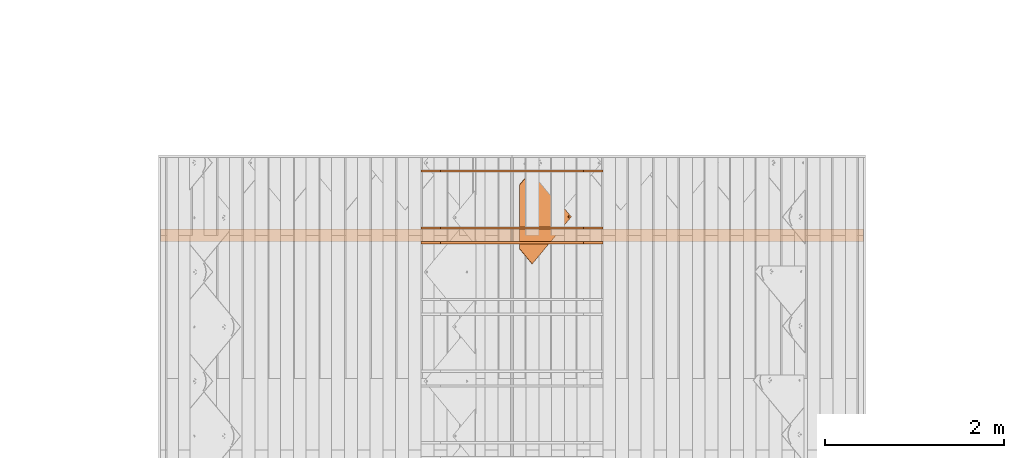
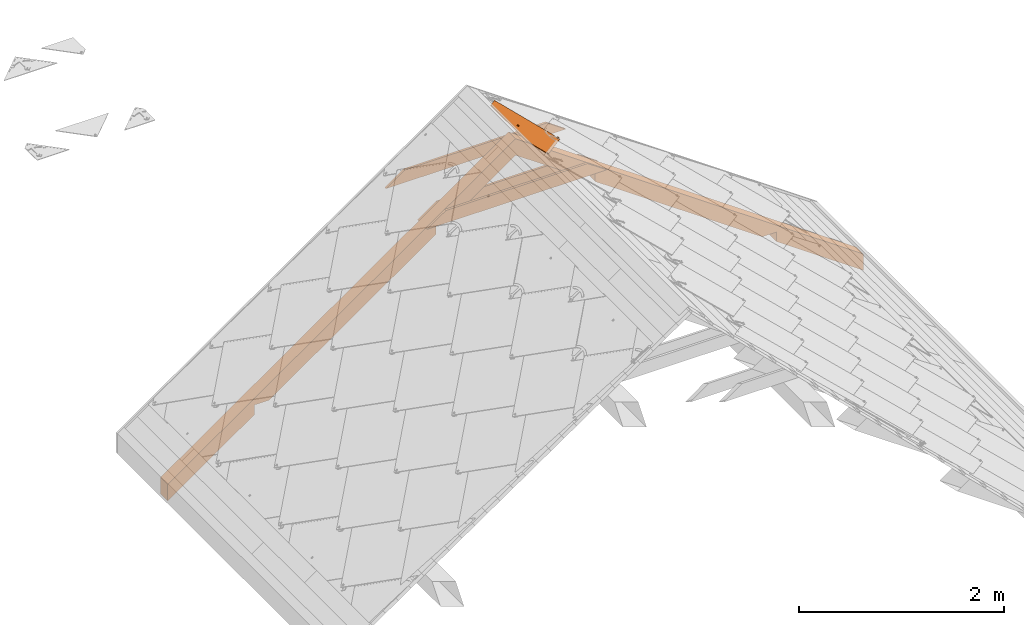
# One storey, part 85 of 133: 5 proxies, 1 element without a shape of its own.
"""IFC2X3 building model written with IfcOpenShell, lengths in millimetres."""

from ifc_helpers import new_model, entity, si_unit, converted_unit, derived_unit, direction, frame, origin, place, context, subcontext, project, spatial, polyline, outline, extrude, faceted_brep, source, transform, mapped, material, material_list, type_object, type_shapes, element, aggregate, save


model = new_model("IFC2X3")

# Units and contexts
model_context = context("Model", 3, precision=0.01, world=origin(), true_north=direction((6.12303176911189e-17, 1.0)))
body_context = subcontext(model_context, "Body", "Model", "MODEL_VIEW")
ifc_project = project(units=[si_unit("LENGTHUNIT", "METRE", prefix="MILLI"), si_unit("AREAUNIT", "SQUARE_METRE"), si_unit("VOLUMEUNIT", "CUBIC_METRE"), converted_unit("PLANEANGLEUNIT", "DEGREE", entity("IfcRatioMeasure", 0.0174532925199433), si_unit("PLANEANGLEUNIT", "RADIAN"), dimensions=[0, 0, 0, 0, 0, 0, 0]), si_unit("MASSUNIT", "GRAM", prefix="KILO"), derived_unit("MASSDENSITYUNIT", [(si_unit("MASSUNIT", "GRAM", prefix="KILO"), 1), (si_unit("LENGTHUNIT", "METRE"), -3)]), si_unit("TIMEUNIT", "SECOND"), si_unit("FREQUENCYUNIT", "HERTZ"), si_unit("THERMODYNAMICTEMPERATUREUNIT", "DEGREE_CELSIUS"), derived_unit("THERMALTRANSMITTANCEUNIT", [(si_unit("MASSUNIT", "GRAM", prefix="KILO"), 1), (si_unit("THERMODYNAMICTEMPERATUREUNIT", "KELVIN"), -1), (si_unit("TIMEUNIT", "SECOND"), -3)]), derived_unit("VOLUMETRICFLOWRATEUNIT", [(si_unit("LENGTHUNIT", "METRE"), 3), (si_unit("TIMEUNIT", "SECOND"), -1)]), si_unit("ELECTRICCURRENTUNIT", "AMPERE"), si_unit("ELECTRICVOLTAGEUNIT", "VOLT"), si_unit("POWERUNIT", "WATT"), si_unit("FORCEUNIT", "NEWTON", prefix="KILO"), si_unit("ILLUMINANCEUNIT", "LUX"), si_unit("LUMINOUSFLUXUNIT", "LUMEN"), si_unit("LUMINOUSINTENSITYUNIT", "CANDELA"), derived_unit("USERDEFINED", [(si_unit("MASSUNIT", "GRAM", prefix="KILO"), -1), (si_unit("LENGTHUNIT", "METRE"), -2), (si_unit("TIMEUNIT", "SECOND"), 3), (si_unit("LUMINOUSFLUXUNIT", "LUMEN"), 1)]), derived_unit("LINEARVELOCITYUNIT", [(si_unit("LENGTHUNIT", "METRE"), 1), (si_unit("TIMEUNIT", "SECOND"), -1)]), si_unit("PRESSUREUNIT", "PASCAL"), derived_unit("USERDEFINED", [(si_unit("LENGTHUNIT", "METRE"), -2), (si_unit("MASSUNIT", "GRAM", prefix="KILO"), 1), (si_unit("TIMEUNIT", "SECOND"), -2)])], contexts=[model_context])

# Site, building, storey
site_placement = place(None, origin())
site = spatial("IfcSite", under=ifc_project, at=site_placement, Name="Default", CompositionType="ELEMENT")
building_placement = place(site_placement, origin())
building = spatial("IfcBuilding", under=site, at=building_placement, CompositionType="ELEMENT")
storey_placement = place(building_placement, origin())
storey = spatial("IfcBuildingStorey", under=building, at=storey_placement, Name="Level 1", CompositionType="ELEMENT", Elevation=0.0)

# Assembly, proxies
assembly_placement = place(storey_placement, origin())
assembly = element("IfcElementAssembly", 1, at=assembly_placement, inside=storey, Name="Structural Framing Assembly:Roof Construction Assembly", ObjectType="Structural Framing Assembly:Roof Construction Assembly", AssemblyPlace="NOTDEFINED", PredefinedType="USERDEFINED")
ifc_material_1 = material(Name="Wood - Generic - Wood For Showcase")
building_element_proxy_type_1 = type_object("IfcBuildingElementProxyType", Name="Structural Framing 1", PredefinedType="NOTDEFINED", material=ifc_material_1)
shared_shape_1 = source(origin(), body_context, "Body", "SweptSolid", [
    extrude(outline(polyline([(-929.245683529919, -1327.10037070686), (3863.25950492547, -1327.10037070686), (3975.29271103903, -1167.10037070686), (2778.93361405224, -1167.10037070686), (2713.54351952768, -1260.48710386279), (2580.17344271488, -1167.10037070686), (278.93361405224, -1167.10037070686), (213.543519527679, -1260.48710386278), (80.1734427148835, -1167.10037070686), (-817.212477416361, -1167.10037070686), (-1124.13653843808, -323.83344356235), (-1257.50661525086, -230.446710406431), (-1192.11652072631, -137.059977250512), (-1979.18689675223, 2025.39810840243), (-2112.55697356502, 2118.78484155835), (-2047.16687904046, 2212.17157471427), (-2456.34578886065, 3336.38138996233), (-2568.37899497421, 3176.38138996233), (-929.245683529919, -1327.10037070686)])), frame((1206.77890726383, 3785.55080214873, 1179.90959070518), z_axis=(0.0, 1.0, 0.0), x_axis=(0.819152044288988, 0.0, -0.573576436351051)), (0.0, 0.0, 1.0), 140.0),
])
type_shapes(building_element_proxy_type_1, [shared_shape_1])
proxy_1_placement = place(assembly_placement, frame((0.0, -800.0, 0.0)))
proxy_1 = element("IfcBuildingElementProxy", 2, at=proxy_1_placement, type_object=building_element_proxy_type_1, material=ifc_material_1, Name="Structural Framing 2:Structural Framing 1", ObjectType="Structural Framing 2:Structural Framing 1", context=body_context, shape_type="MappedRepresentation", body=[
    mapped(shared_shape_1, transform((0.0, 0.0, 0.0), scale=1.0)),
])
building_element_proxy_type_2 = type_object("IfcBuildingElementProxyType", Name="Structural Framing 296", PredefinedType="NOTDEFINED", material=ifc_material_1)
shared_shape_2 = source(origin(), body_context, "Body", "SweptSolid", [
    extrude(outline(polyline([(-1014.04699829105, -75.0), (1014.04699829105, -75.0), (799.824797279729, 75.0), (-799.824797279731, 75.0), (-1014.04699829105, -75.0)])), frame((1206.77890726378, 3760.55080214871, 2164.95664769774), z_axis=(0.0, 1.0, 0.0), x_axis=(-1.0, 0.0, 0.0)), (0.0, 0.0, 1.0), 24.9999999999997),
])
type_shapes(building_element_proxy_type_2, [shared_shape_2])
proxy_2_placement = place(assembly_placement, origin())
proxy_2 = element("IfcBuildingElementProxy", 3, at=proxy_2_placement, type_object=building_element_proxy_type_2, material=ifc_material_1, Name="Structural Framing 296:Structural Framing 296", ObjectType="Structural Framing 296:Structural Framing 296", context=body_context, shape_type="MappedRepresentation", body=[
    mapped(shared_shape_2, transform((0.0, 0.0, 0.0), scale=1.0)),
])
building_element_proxy_type_3 = type_object("IfcBuildingElementProxyType", Name="Structural Framing 296", PredefinedType="NOTDEFINED", material=ifc_material_1)
shared_shape_3 = source(origin(), body_context, "Body", "SweptSolid", [
    extrude(outline(polyline([(-1014.04699829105, -75.0), (1014.04699829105, -75.0), (799.824797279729, 75.0), (-799.824797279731, 75.0), (-1014.04699829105, -75.0)])), frame((1206.77890726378, 3760.55080214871, 2164.95664769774), z_axis=(0.0, 1.0, 0.0), x_axis=(-1.0, 0.0, 0.0)), (0.0, 0.0, 1.0), 24.9999999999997),
])
type_shapes(building_element_proxy_type_3, [shared_shape_3])
proxy_3_placement = place(assembly_placement, frame((0.0, -800.0, 0.0)))
proxy_3 = element("IfcBuildingElementProxy", 4, at=proxy_3_placement, type_object=building_element_proxy_type_3, material=ifc_material_1, Name="Structural Framing 297:Structural Framing 296", ObjectType="Structural Framing 297:Structural Framing 296", context=body_context, shape_type="MappedRepresentation", body=[
    mapped(shared_shape_3, transform((0.0, 0.0, 0.0), scale=1.0)),
])
building_element_proxy_type_4 = type_object("IfcBuildingElementProxyType", Name="Structural Framing 296", PredefinedType="NOTDEFINED", material=ifc_material_1)
shared_shape_4 = source(origin(), body_context, "Body", "SweptSolid", [
    extrude(outline(polyline([(-1014.04699829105, -75.0), (1014.04699829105, -75.0), (799.824797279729, 75.0), (-799.824797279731, 75.0), (-1014.04699829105, -75.0)])), frame((1206.77890726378, 2325.55080214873, 2164.95664769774), z_axis=(0.0, 1.0, 0.0), x_axis=(-1.0, 0.0, 0.0)), (0.0, 0.0, 1.0), 25.0),
])
type_shapes(building_element_proxy_type_4, [shared_shape_4])
proxy_4_placement = place(assembly_placement, frame((0.0, 800.0, 0.0)))
proxy_4 = element("IfcBuildingElementProxy", 5, at=proxy_4_placement, type_object=building_element_proxy_type_4, material=ifc_material_1, Name="Structural Framing 298:Structural Framing 296", ObjectType="Structural Framing 298:Structural Framing 296", context=body_context, shape_type="MappedRepresentation", body=[
    mapped(shared_shape_4, transform((0.0, 0.0, 0.0), scale=1.0)),
])
aggregate(assembly, [proxy_1, proxy_2, proxy_3, proxy_4])

# Proxy
ifc_material_2 = material(Name="Rubber - Sunstyle - Black")
ifc_material_3 = material(Name="Glass - Sunstyle - Tainted Black")
ifc_material_list_1 = material_list([ifc_material_2, ifc_material_3])
ifc_material_list_2 = material_list([ifc_material_2, ifc_material_3])
building_element_proxy_type_5 = type_object("IfcBuildingElementProxyType", Name="Shingle Top - Black", PredefinedType="NOTDEFINED", material=ifc_material_list_2)
shared_shape_5 = source(origin(), body_context, "Body", "Brep", [
    faceted_brep([(-518.396436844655, -96.9865733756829, 16.4476231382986), (-518.396436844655, -96.9614556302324, 17.9474128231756), (-526.881123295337, -88.4767691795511, 17.8053154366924), (-526.881123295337, -88.5018869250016, 16.3055257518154), (-376.996804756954, 61.3404039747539, 13.7960402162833), (-368.512118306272, 52.8557175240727, 13.9381376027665), (-376.996804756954, 61.3655217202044, 15.2958299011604), (-368.512118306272, 52.8808352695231, 15.4379272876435)], [[[0, 1, 2, 3]], [[0, 3, 4, 5]], [[3, 2, 6, 4]], [[2, 1, 7, 6]], [[1, 0, 5, 7]], [[5, 4, 6, 7]]]),
    faceted_brep([(0.166366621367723, -33.6374645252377, -4.47296585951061), (-5.6078362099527, -36.9707346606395, -4.4171418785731), (-5.60783620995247, -36.6024255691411, 17.5747274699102), (0.166366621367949, -33.2691554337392, 17.5189034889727), (-5.60783620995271, -43.6372749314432, -4.30549391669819), (-5.60783620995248, -43.2689658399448, 17.6863754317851), (0.166366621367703, -46.9705450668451, -4.24966993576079), (0.166366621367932, -46.6022359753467, 17.7421994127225), (5.94056945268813, -43.6372749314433, -4.30549391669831), (5.94056945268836, -43.2689658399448, 17.686375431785), (5.94056945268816, -36.9707346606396, -4.41714187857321), (5.94056945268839, -36.6024255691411, 17.5747274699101), (-8.43733754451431, -48.5381935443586, 17.774621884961), (0.16636662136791, -52.1014648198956, 17.8342978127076), (-12.0011084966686, -39.9356957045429, 17.6305514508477), (-8.43733754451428, -31.3331978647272, 17.4864810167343), (0.166366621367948, -27.7699265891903, 17.4268050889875), (8.77007078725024, -31.3331978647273, 17.4864810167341), (12.3338417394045, -39.935695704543, 17.6305514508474), (8.77007078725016, -48.5381935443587, 17.7746218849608), (-11.1578780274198, -37.6406185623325, 19.9433933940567), (-9.59010793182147, -39.8646808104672, 21.8708760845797), (0.166366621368, -32.5516055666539, 22.5035764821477), (0.166366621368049, -31.3111079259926, 21.9232298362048), (0.166366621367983, -29.1535570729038, 20.9138547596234), (0.166366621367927, -51.5454208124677, 19.1093557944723), (0.166366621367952, -50.6018442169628, 21.273060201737), (0.166366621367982, -47.1524685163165, 22.7481046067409), (0.166366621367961, -28.2829626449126, 18.7197675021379), (-6.15687907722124, -43.5022527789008, 22.6869725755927), (-6.15687907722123, -36.2018213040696, 22.5647085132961), (11.4906112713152, -42.1520387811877, 20.0189484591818), (10.0152467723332, -40.9390872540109, 21.7920079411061), (6.48961231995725, -36.2018213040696, 22.564708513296), (6.48961231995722, -43.5022527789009, 22.6869725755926), (-6.15687907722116, -43.3682243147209, 30.68986075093), (0.166366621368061, -47.0184400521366, 30.7509927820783), (0.166366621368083, -39.7180085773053, 30.6287287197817), (-6.15687907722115, -36.0677928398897, 30.5675966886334), (6.48961231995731, -43.368224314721, 30.6898607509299), (6.48961231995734, -36.0677928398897, 30.5675966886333), (0.166366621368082, -32.417577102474, 30.5064646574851), (0.166366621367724, -40.3040047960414, -4.36131789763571)], [[[0, 1, 2, 3]], [[1, 4, 5, 2]], [[4, 6, 7, 5]], [[6, 8, 9, 7]], [[8, 10, 11, 9]], [[10, 0, 3, 11]], [[12, 7, 13]], [[7, 12, 5]], [[14, 5, 12]], [[5, 14, 2]], [[15, 2, 14]], [[3, 2, 15]], [[15, 16, 3]], [[16, 17, 3]], [[11, 3, 17]], [[11, 17, 18]], [[9, 11, 18]], [[18, 19, 9]], [[7, 9, 19]], [[19, 13, 7]], [[20, 14, 12]], [[21, 22, 23, 24]], [[24, 20, 21]], [[25, 20, 12]], [[26, 27, 21]], [[15, 14, 20]], [[12, 13, 25]], [[20, 28, 15]], [[28, 20, 24]], [[21, 27, 29]], [[21, 29, 30]], [[26, 21, 20]], [[20, 25, 26]], [[15, 28, 16]], [[21, 30, 22]], [[31, 18, 17]], [[28, 31, 17]], [[32, 27, 26]], [[26, 31, 32]], [[26, 25, 31]], [[25, 19, 31]], [[17, 16, 28]], [[31, 19, 18]], [[24, 31, 28]], [[33, 34, 32]], [[23, 22, 33]], [[24, 32, 31]], [[27, 32, 34]], [[32, 23, 33]], [[19, 25, 13]], [[32, 24, 23]], [[35, 36, 37]], [[37, 38, 35]], [[36, 39, 37]], [[40, 37, 39]], [[37, 40, 41]], [[37, 41, 38]], [[42, 6, 4]], [[4, 1, 42]], [[1, 0, 42]], [[42, 8, 6]], [[0, 10, 42]], [[8, 42, 10]], [[22, 30, 38, 41]], [[30, 29, 35, 38]], [[29, 27, 36, 35]], [[27, 34, 39, 36]], [[34, 33, 40, 39]], [[33, 22, 41, 40]]]),
    faceted_brep([(0.0, -573.927138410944, 4.00636906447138), (-5.77420283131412, -577.260408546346, 4.0621930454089), (-5.77420283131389, -576.892099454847, 26.0540623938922), (0.0, -573.558829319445, 25.9982384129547), (-5.77420283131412, -583.926948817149, 4.1738410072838), (-5.7742028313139, -583.558639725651, 26.1657103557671), (0.0, -587.260218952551, 4.2296649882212), (0.0, -586.891909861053, 26.2215343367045), (5.77420283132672, -583.926948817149, 4.17384100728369), (5.77420283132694, -583.558639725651, 26.165710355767), (5.77420283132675, -577.260408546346, 4.06219304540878), (5.77420283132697, -576.892099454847, 26.0540623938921), (-8.60370416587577, -588.827867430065, 26.253956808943), (0.0, -592.391138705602, 26.3136327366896), (-12.1674751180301, -580.225369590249, 26.1098863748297), (-8.60370416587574, -571.622871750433, 25.9658159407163), (0.0, -568.059600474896, 25.9061400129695), (8.60370416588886, -571.622871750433, 25.9658159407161), (12.1674751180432, -580.225369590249, 26.1098863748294), (8.60370416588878, -588.827867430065, 26.2539568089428), (-11.3242446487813, -577.930292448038, 28.4227283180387), (-9.75647455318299, -580.154354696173, 30.3502110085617), (0.0, -572.84127945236, 30.9829114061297), (0.0, -571.600781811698, 30.4025647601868), (0.0, -569.44323095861, 29.3931896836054), (0.0, -591.835094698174, 27.5886907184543), (0.0, -590.891518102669, 29.752395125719), (0.0, -587.442142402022, 31.227439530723), (0.0, -568.572636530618, 27.1991024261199), (-6.32324569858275, -583.791926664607, 31.1663074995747), (-6.32324569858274, -576.491495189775, 31.0440434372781), (11.3242446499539, -582.441712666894, 28.4982833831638), (9.84888015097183, -581.228761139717, 30.2713428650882), (6.32324569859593, -576.491495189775, 31.044043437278), (6.32324569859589, -583.791926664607, 31.1663074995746), (-6.32324569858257, -583.657898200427, 39.169195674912), (0.0, -587.308113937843, 39.2303277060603), (0.0, -580.007682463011, 39.1080636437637), (-6.32324569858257, -576.357466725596, 39.0469316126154), (6.32324569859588, -583.657898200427, 39.1691956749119), (6.32324569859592, -576.357466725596, 39.0469316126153), (0.0, -572.70725098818, 38.9857995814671), (0.0, -580.593678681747, 4.11801702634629)], [[[0, 1, 2, 3]], [[1, 4, 5, 2]], [[4, 6, 7, 5]], [[6, 8, 9, 7]], [[8, 10, 11, 9]], [[10, 0, 3, 11]], [[12, 7, 13]], [[7, 12, 5]], [[14, 5, 12]], [[5, 14, 2]], [[15, 2, 14]], [[3, 2, 15]], [[15, 16, 3]], [[16, 17, 3]], [[11, 3, 17]], [[11, 17, 18]], [[9, 11, 18]], [[18, 19, 9]], [[7, 9, 19]], [[19, 13, 7]], [[20, 14, 12]], [[21, 22, 23, 24]], [[24, 20, 21]], [[25, 20, 12]], [[26, 27, 21]], [[15, 14, 20]], [[12, 13, 25]], [[20, 28, 15]], [[28, 20, 24]], [[21, 27, 29]], [[21, 29, 30]], [[26, 21, 20]], [[20, 25, 26]], [[15, 28, 16]], [[21, 30, 22]], [[31, 18, 17]], [[28, 31, 17]], [[32, 27, 26]], [[26, 31, 32]], [[26, 25, 31]], [[25, 19, 31]], [[17, 16, 28]], [[31, 19, 18]], [[24, 31, 28]], [[33, 34, 32]], [[23, 22, 33]], [[24, 32, 31]], [[27, 32, 34]], [[32, 23, 33]], [[19, 25, 13]], [[32, 24, 23]], [[35, 36, 37]], [[37, 38, 35]], [[36, 39, 37]], [[40, 37, 39]], [[37, 40, 41]], [[37, 41, 38]], [[42, 6, 4]], [[4, 1, 42]], [[1, 0, 42]], [[42, 8, 6]], [[0, 10, 42]], [[8, 42, 10]], [[22, 30, 38, 41]], [[30, 29, 35, 38]], [[29, 27, 36, 35]], [[27, 34, 39, 36]], [[34, 33, 40, 39]], [[33, 22, 41, 40]]]),
    faceted_brep([(518.482751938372, -96.8754983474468, 17.9260478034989), (526.967438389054, -88.3908118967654, 17.7839504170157), (526.967438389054, -88.3656941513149, 19.2837401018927), (518.482751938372, -96.8503806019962, 19.4258374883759), (349.749400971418, 71.8105397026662, 15.1009763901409), (358.234087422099, 80.2952261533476, 14.9588790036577), (358.234087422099, 80.3203438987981, 16.4586686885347), (349.749400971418, 71.8356574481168, 16.6007660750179)], [[[0, 1, 2, 3]], [[1, 0, 4, 5]], [[2, 1, 5, 6]], [[3, 2, 6, 7]], [[0, 3, 7, 4]], [[4, 7, 6, 5]]]),
    faceted_brep([(358.234087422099, 80.2952261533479, 14.9588790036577), (6.94661128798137, -35.8890860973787, 16.9046771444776), (7.74581466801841, -37.8182632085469, 16.9369860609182), (5.67526230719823, -34.2324641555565, 16.8769328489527), (8.01840805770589, -39.8885252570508, 16.9716577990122), (7.74581466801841, -41.9587873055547, 17.0063295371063), (6.94661128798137, -43.8879644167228, 17.0386384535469), (526.967438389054, -88.3908118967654, 17.7839504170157), (4.01840805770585, -32.9612934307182, 16.855643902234), (2.08896041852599, -32.1622021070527, 16.8422611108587), (0.0184080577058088, -31.8896469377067, 16.8376964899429), (-358.233442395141, 80.2952261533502, 14.9588790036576), (-2.05214430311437, -32.1622021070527, 16.8422611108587), (-3.98159194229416, -32.9612934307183, 16.855643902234), (-5.63844619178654, -34.2324641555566, 16.8769328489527), (-6.90979517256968, -35.8890860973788, 16.9046771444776), (-7.70899855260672, -37.8182632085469, 16.9369860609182), (-7.98159194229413, -39.8885252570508, 16.9716577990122), (-7.70899855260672, -41.9587873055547, 17.0063295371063), (-6.90979517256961, -43.8879644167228, 17.0386384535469), (-526.966793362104, -88.390811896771, 17.7839504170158), (-5.63844619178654, -45.544586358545, 17.0663827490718), (-5.6568542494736, -574.226981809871, 25.9204974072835), (-6.92820323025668, -575.883603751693, 25.9482417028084), (-7.72740661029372, -577.812780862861, 25.980550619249), (-8.0, -579.883042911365, 26.015222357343), (-7.72740661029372, -581.953304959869, 26.049894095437), (0.000322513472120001, -615.210165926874, 26.6068637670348), (7.72740661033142, -581.953304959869, 26.049894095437), (6.92820323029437, -583.882482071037, 26.0822030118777), (5.65685424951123, -585.53910401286, 26.1099473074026), (4.0, -586.810274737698, 26.1312362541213), (2.070552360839, -587.609366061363, 26.1446190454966), (0.0, -587.881921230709, 26.1491836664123), (-2.0705523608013, -587.609366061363, 26.1446190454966), (-4.0, -586.810274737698, 26.1312362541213), (-5.65685424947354, -585.53910401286, 26.1099473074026), (-6.92820323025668, -583.882482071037, 26.0822030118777), (-4.0, -572.955811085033, 25.8992084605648), (-3.98159194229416, -46.8157570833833, 17.0876716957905), (-2.07055236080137, -572.156719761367, 25.8858256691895), (-2.05214430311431, -47.614848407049, 17.1010544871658), (0.0, -571.884164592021, 25.8812610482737), (0.0184080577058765, -47.8874035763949, 17.1056191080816), (2.07055236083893, -572.156719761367, 25.8858256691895), (2.08896041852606, -47.6148484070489, 17.1010544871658), (4.0, -572.955811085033, 25.8992084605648), (4.01840805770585, -46.8157570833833, 17.0876716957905), (5.65685424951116, -574.226981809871, 25.9204974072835), (5.67526230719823, -45.544586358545, 17.0663827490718), (6.92820323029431, -575.883603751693, 25.9482417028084), (7.72740661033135, -577.812780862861, 25.980550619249), (8.0, -579.883042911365, 26.015222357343), (-358.233442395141, 80.1947551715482, 8.9597202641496), (-6.90979517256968, -35.9895570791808, 10.9055184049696), (-7.70899855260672, -37.9187341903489, 10.9378273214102), (-5.63844619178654, -34.3329351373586, 10.8777741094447), (-7.98159194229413, -39.9889962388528, 10.9724990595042), (-7.70899855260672, -42.0592582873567, 11.0071707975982), (-6.90979517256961, -43.9884353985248, 11.0394797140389), (-526.966793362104, -88.4912828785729, 11.7847916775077), (-3.98159194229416, -33.0617644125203, 10.856485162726), (-2.05214430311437, -32.2626730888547, 10.8431023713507), (0.0184080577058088, -31.9901179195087, 10.8385377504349), (358.234087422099, 80.1947551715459, 8.95972026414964), (2.08896041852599, -32.2626730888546, 10.8431023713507), (4.01840805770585, -33.0617644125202, 10.856485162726), (5.67526230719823, -34.3329351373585, 10.8777741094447), (6.94661128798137, -35.9895570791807, 10.9055184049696), (7.74581466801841, -37.9187341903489, 10.9378273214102), (8.01840805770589, -39.9889962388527, 10.9724990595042), (7.74581466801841, -42.0592582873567, 11.0071707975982), (6.94661128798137, -43.9884353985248, 11.0394797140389), (526.967438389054, -88.4912828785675, 11.7847916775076), (5.67526230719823, -45.645057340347, 11.0672240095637), (5.65685424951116, -574.327452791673, 19.9213386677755), (6.92820323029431, -575.984074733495, 19.9490829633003), (7.72740661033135, -577.913251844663, 19.981391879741), (8.0, -579.983513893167, 20.016063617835), (7.72740661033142, -582.053775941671, 20.050735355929), (0.000322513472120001, -615.310636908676, 20.6077050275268), (-7.72740661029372, -582.053775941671, 20.050735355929), (-6.92820323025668, -583.982953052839, 20.0830442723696), (-5.65685424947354, -585.639574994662, 20.1107885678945), (-4.0, -586.9107457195, 20.1320775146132), (-2.0705523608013, -587.709837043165, 20.1454603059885), (0.0, -587.982392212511, 20.1500249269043), (2.070552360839, -587.709837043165, 20.1454603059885), (4.0, -586.9107457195, 20.1320775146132), (5.65685424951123, -585.639574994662, 20.1107885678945), (6.92820323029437, -583.982953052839, 20.0830442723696), (4.01840805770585, -46.9162280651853, 11.0885129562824), (4.0, -573.056282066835, 19.9000497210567), (2.08896041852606, -47.7153193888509, 11.1018957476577), (2.07055236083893, -572.257190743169, 19.8866669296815), (0.0184080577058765, -47.9878745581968, 11.1064603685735), (0.0, -571.984635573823, 19.8821023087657), (-2.05214430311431, -47.7153193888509, 11.1018957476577), (-2.07055236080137, -572.257190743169, 19.8866669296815), (-3.98159194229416, -46.9162280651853, 11.0885129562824), (-4.0, -573.056282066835, 19.9000497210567), (-5.63844619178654, -45.645057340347, 11.0672240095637), (-5.6568542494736, -574.327452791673, 19.9213386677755), (-6.92820323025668, -575.984074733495, 19.9490829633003), (-7.72740661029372, -577.913251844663, 19.981391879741), (-8.0, -579.983513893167, 20.016063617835)], [[[0, 1, 2]], [[1, 0, 3]], [[0, 2, 4]], [[4, 5, 0]], [[5, 6, 0]], [[7, 0, 6]], [[8, 3, 0]], [[9, 8, 0]], [[10, 9, 0]], [[0, 11, 10]], [[12, 10, 11]], [[13, 12, 11]], [[14, 13, 11]], [[11, 15, 14]], [[15, 11, 16]], [[16, 11, 17]], [[11, 18, 17]], [[18, 11, 19]], [[11, 20, 19]], [[19, 20, 21]], [[20, 22, 21]], [[23, 22, 20]], [[24, 23, 20]], [[24, 20, 25]], [[26, 25, 20]], [[27, 26, 20]], [[7, 28, 27]], [[29, 27, 28]], [[27, 29, 30]], [[30, 31, 27]], [[31, 32, 27]], [[27, 32, 33]], [[27, 33, 34]], [[34, 35, 27]], [[27, 35, 36]], [[36, 37, 27]], [[37, 26, 27]], [[38, 21, 22]], [[38, 39, 21]], [[38, 40, 39]], [[40, 41, 39]], [[40, 42, 41]], [[41, 42, 43]], [[44, 43, 42]], [[44, 45, 43]], [[45, 44, 46]], [[46, 47, 45]], [[46, 48, 47]], [[48, 49, 47]], [[50, 7, 48]], [[48, 7, 49]], [[7, 50, 51]], [[7, 51, 52]], [[52, 28, 7]], [[7, 6, 49]], [[53, 54, 55]], [[54, 53, 56]], [[53, 55, 57]], [[58, 53, 57]], [[59, 53, 58]], [[60, 53, 59]], [[61, 56, 53]], [[62, 61, 53]], [[53, 63, 62]], [[63, 53, 64]], [[65, 63, 64]], [[66, 65, 64]], [[64, 67, 66]], [[67, 64, 68]], [[68, 64, 69]], [[70, 69, 64]], [[71, 70, 64]], [[72, 71, 64]], [[72, 64, 73]], [[72, 73, 74]], [[74, 73, 75]], [[73, 76, 75]], [[76, 73, 77]], [[77, 73, 78]], [[79, 78, 73]], [[79, 73, 80]], [[60, 81, 80]], [[80, 81, 82]], [[80, 82, 83]], [[83, 84, 80]], [[84, 85, 80]], [[85, 86, 80]], [[80, 86, 87]], [[80, 87, 88]], [[80, 88, 89]], [[79, 80, 90]], [[80, 89, 90]], [[75, 91, 74]], [[75, 92, 91]], [[92, 93, 91]], [[93, 92, 94]], [[93, 94, 95]], [[96, 95, 94]], [[97, 95, 96]], [[96, 98, 97]], [[98, 99, 97]], [[98, 100, 99]], [[100, 101, 99]], [[100, 102, 101]], [[60, 101, 102]], [[103, 60, 102]], [[103, 104, 60]], [[104, 105, 60]], [[105, 81, 60]], [[59, 101, 60]], [[27, 20, 60, 80]], [[7, 27, 80, 73]], [[0, 7, 73, 64]], [[25, 105, 104, 24]], [[24, 104, 103, 23]], [[38, 22, 102, 100]], [[102, 22, 23, 103]], [[40, 38, 100, 98]], [[40, 98, 96, 42]], [[42, 96, 94, 44]], [[44, 94, 92, 46]], [[50, 48, 75, 76]], [[75, 48, 46, 92]], [[51, 50, 76, 77]], [[51, 77, 78, 52]], [[52, 78, 79, 28]], [[28, 79, 90, 29]], [[31, 30, 89, 88]], [[29, 90, 89, 30]], [[87, 32, 31, 88]], [[32, 87, 86, 33]], [[34, 33, 86, 85]], [[34, 85, 84, 35]], [[37, 36, 83, 82]], [[35, 84, 83, 36]], [[37, 82, 81, 26]], [[26, 81, 105, 25]], [[17, 57, 55, 16]], [[16, 55, 54, 15]], [[13, 14, 56, 61]], [[56, 14, 15, 54]], [[12, 13, 61, 62]], [[12, 62, 63, 10]], [[10, 63, 65, 9]], [[9, 65, 66, 8]], [[1, 3, 67, 68]], [[67, 3, 8, 66]], [[2, 1, 68, 69]], [[2, 69, 70, 4]], [[4, 70, 71, 5]], [[5, 71, 72, 6]], [[47, 49, 74, 91]], [[74, 49, 6, 72]], [[45, 47, 91, 93]], [[45, 93, 95, 43]], [[43, 95, 97, 41]], [[41, 97, 99, 39]], [[19, 21, 101, 59]], [[101, 21, 39, 99]], [[18, 19, 59, 58]], [[18, 58, 57, 17]], [[11, 0, 64, 53]], [[20, 11, 53, 60]]]),
])
type_shapes(building_element_proxy_type_5, [shared_shape_5])
proxy_5_placement = place(storey_placement, frame((1350.0792094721, 3262.18769952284, 2730.17941288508), z_axis=(0.573576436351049, 0.0, 0.81915204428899), x_axis=(0.0, 1.0, 0.0)))
element("IfcBuildingElementProxy", 6, at=proxy_5_placement, inside=storey, type_object=building_element_proxy_type_5, material=ifc_material_list_1, Name="Roofing_Panels_SunStyle_Tile_Shingle-Top:Shingle Top - Black", ObjectType="Roofing_Panels_SunStyle_Tile_Shingle-Top:Shingle Top - Black", context=body_context, shape_type="MappedRepresentation", body=[
    mapped(shared_shape_5, transform((0.0, 0.0, 0.0), scale=1.0)),
])

save(model, "model.ifc")
